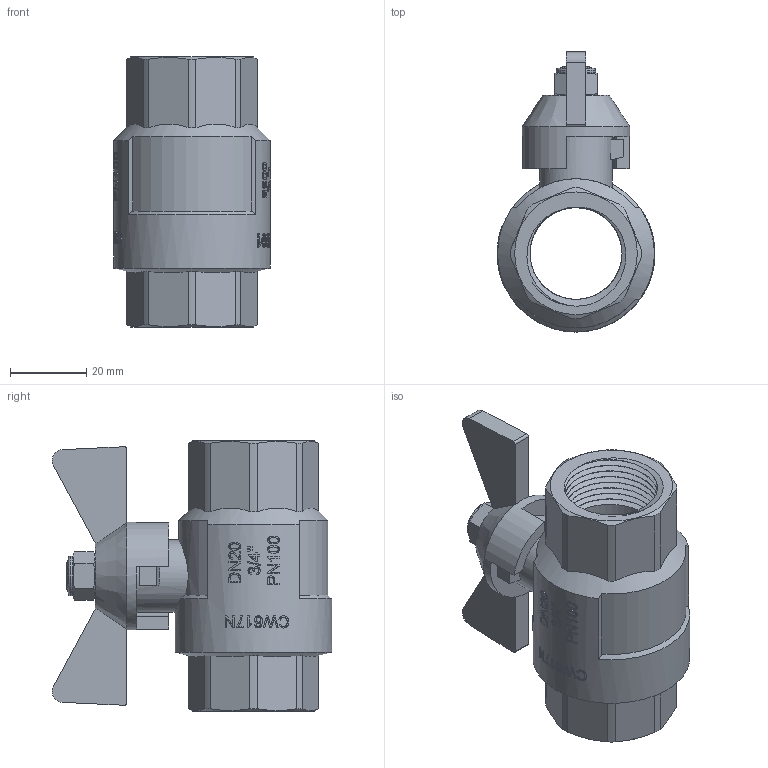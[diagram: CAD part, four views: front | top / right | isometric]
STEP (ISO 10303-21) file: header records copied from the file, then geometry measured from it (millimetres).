
FILE_DESCRIPTION(/* description */ (''),/* implementation_level */ '2;1');
FILE_NAME(/* name */ 'F:\Артём\00000\Работа удаленка\0\B\VT.317.N.05.stp',/* time_stamp */ '2021-02-03T16:04:18+03:00',/* author */ ('almis'),/* organization */ (''),/* preprocessor_version */ 'ST-DEVELOPER v18',/* originating_system */ 'Autodesk Inventor 2020',/* authorisation */ '');
FILE_SCHEMA (('AUTOMOTIVE_DESIGN { 1 0 10303 214 3 1 1 }'));
Length unit declared in the file: millimetre
Products named in the file (1): VT.314_ВВ_3%4
Bounding box: 41.44 x 73.55 x 71 mm (x, y, z)
Volume: 57828.6 mm3; surface area: 23583.3 mm2
Topology: 1 solids, 1 shells, 575 faces, 1543 edges, 1023 vertices
Faces by surface type: bspline 241, plane 201, cylinder 120, cone 10, torus 3
Full cylindrical faces by diameter (mm): 8 x1, 10.392 x1, 19 x1, 24.2 x15, 27.8 x16, 28.333 x1, 41.237 x1
Entity records: 28091 total; most frequent: CARTESIAN_POINT 15362, ORIENTED_EDGE 3086, DIRECTION 1847, EDGE_CURVE 1543, VERTEX_POINT 1023, LINE 689, VECTOR 689, EDGE_LOOP 634
